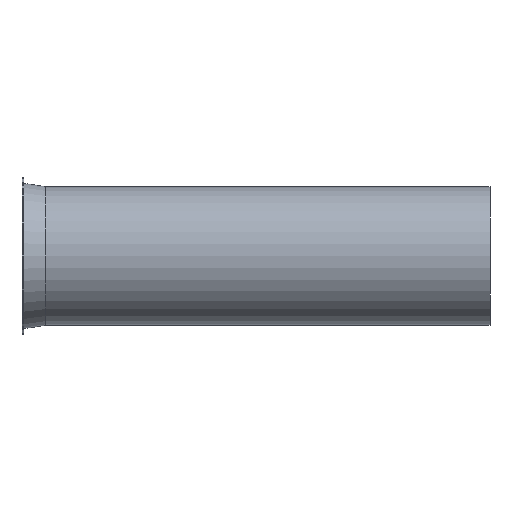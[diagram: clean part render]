
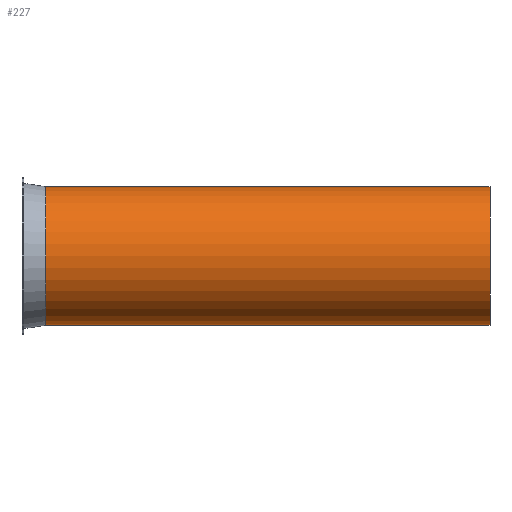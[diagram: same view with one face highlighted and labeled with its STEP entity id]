
A CAD part, front view. The second image highlights one B-rep face of the part: STEP entity #227.
In plain terms, the highlighted cylindrical face has radius 73 mm (diameter 146 mm), a full revolution.
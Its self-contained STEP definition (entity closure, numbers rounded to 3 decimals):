
#132=CARTESIAN_POINT('',(-2.081,46.334,0.0));
#133=VERTEX_POINT('',#132);
#134=CARTESIAN_POINT('',(-2.081,119.334,0.0));
#135=DIRECTION('',(-1.0,0.0,0.0));
#136=DIRECTION('',(0.0,-1.0,0.0));
#137=AXIS2_PLACEMENT_3D('',#134,#135,#136);
#138=CIRCLE('',#137,73.0);
#139=EDGE_CURVE('',#133,#133,#138,.T.);
#201=CARTESIAN_POINT('',(465.919,46.334,0.0));
#202=VERTEX_POINT('',#201);
#203=CARTESIAN_POINT('',(465.919,119.334,0.0));
#204=DIRECTION('',(-1.0,0.0,0.0));
#205=DIRECTION('',(0.0,-1.0,0.0));
#206=AXIS2_PLACEMENT_3D('',#203,#204,#205);
#207=CIRCLE('',#206,73.);
#208=EDGE_CURVE('',#202,#202,#207,.T.);
#216=CARTESIAN_POINT('',(231.919,119.334,0.0));
#217=DIRECTION('',(-1.0,0.,0.0));
#218=DIRECTION('',(0.0,-1.0,0.0));
#219=AXIS2_PLACEMENT_3D('',#216,#217,#218);
#220=CYLINDRICAL_SURFACE('',#219,73.);
#221=ORIENTED_EDGE('',*,*,#139,.F.);
#222=EDGE_LOOP('',(#221));
#223=FACE_OUTER_BOUND('',#222,.T.);
#224=ORIENTED_EDGE('',*,*,#208,.T.);
#225=EDGE_LOOP('',(#224));
#226=FACE_BOUND('',#225,.T.);
#227=ADVANCED_FACE('',(#223,#226),#220,.T.);
